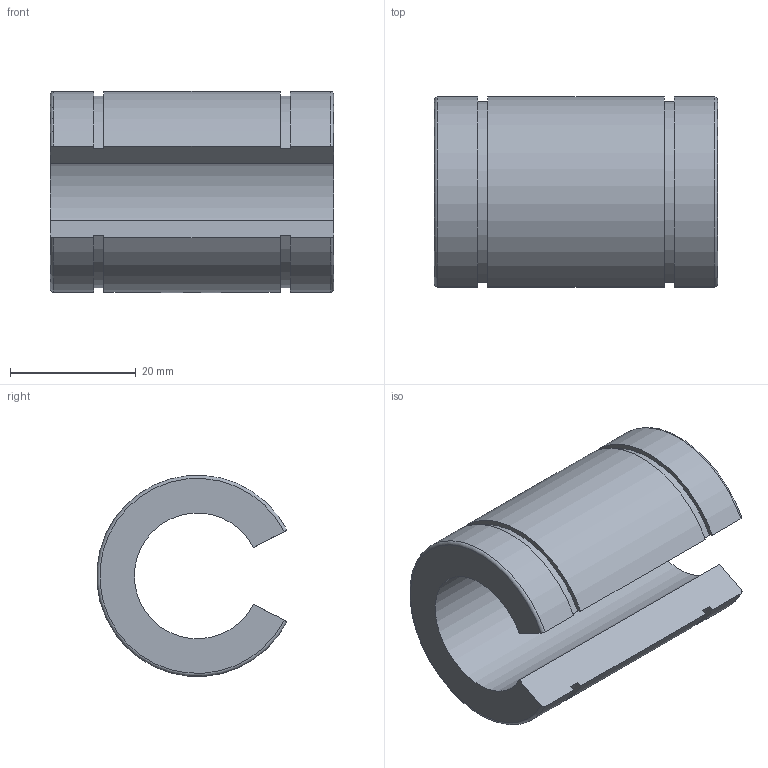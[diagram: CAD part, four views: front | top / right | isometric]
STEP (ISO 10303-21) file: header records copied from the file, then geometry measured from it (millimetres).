
FILE_DESCRIPTION(('STEP AP203'),'1');
FILE_NAME('//192.168.1.1/share/s-4 技術開発/s-4-4_CAD/s-4-4-3_見直し済み/007 修正済み/SB-OP/SB-20OP.step','2022-02-17T01:43:13',(' '),(' '),'Spatial InterOp 3D',' ',' ');
FILE_SCHEMA(('CONFIG_CONTROL_DESIGN'));
Length unit declared in the file: millimetre
Products named in the file (1): 1
Bounding box: 45 x 30.19 x 31.97 mm (x, y, z)
Volume: 18539.6 mm3; surface area: 7830.4 mm2
Topology: 1 solids, 1 shells, 18 faces, 45 edges, 30 vertices
Faces by surface type: plane 9, cylinder 7, torus 2
Full cylindrical faces by diameter (mm): 3 x1
Entity records: 644 total; most frequent: CARTESIAN_POINT 164, DIRECTION 92, ORIENTED_EDGE 88, EDGE_CURVE 44, AXIS2_PLACEMENT_3D 34, VERTEX_POINT 30, LINE 24, VECTOR 24
